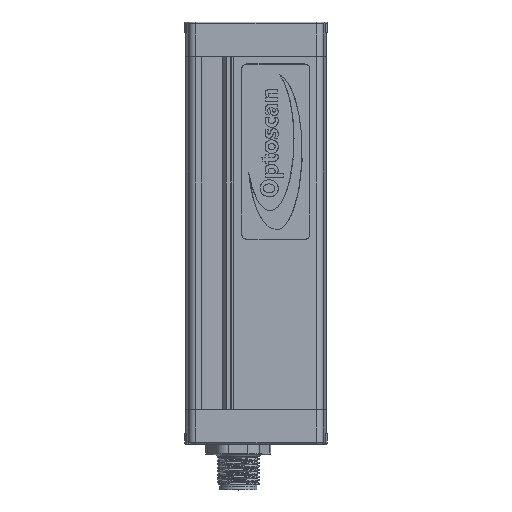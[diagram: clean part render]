
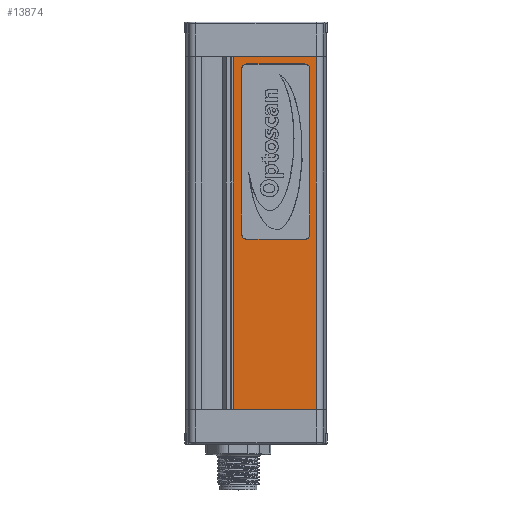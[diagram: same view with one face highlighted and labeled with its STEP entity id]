
A CAD part, top view. The second image highlights one B-rep face of the part: STEP entity #13874.
In plain terms, the highlighted planar face has unit normal (0, 0, 1).
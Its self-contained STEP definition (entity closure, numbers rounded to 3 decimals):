
#178=FACE_BOUND('',#2285,.T.);
#461=CIRCLE('',#14585,1.45);
#467=CIRCLE('',#14593,1.45);
#471=CIRCLE('',#14599,1.45);
#475=CIRCLE('',#14605,1.45);
#1052=PLANE('',#14718);
#1510=FACE_OUTER_BOUND('',#2284,.T.);
#2284=EDGE_LOOP('',(#9922,#9923,#9924,#9925));
#2285=EDGE_LOOP('',(#9926,#9927,#9928,#9929,#9930,#9931,#9932,#9933));
#3345=LINE('',#20295,#4416);
#3347=LINE('',#20307,#4418);
#3349=LINE('',#20319,#4420);
#3351=LINE('',#20328,#4422);
#3562=LINE('',#22495,#4633);
#3563=LINE('',#22497,#4634);
#3564=LINE('',#22499,#4635);
#3565=LINE('',#22500,#4636);
#4416=VECTOR('',#16169,10.);
#4418=VECTOR('',#16183,10.);
#4420=VECTOR('',#16197,10.);
#4422=VECTOR('',#16209,10.);
#4633=VECTOR('',#16644,10.);
#4634=VECTOR('',#16645,10.);
#4635=VECTOR('',#16646,10.);
#4636=VECTOR('',#16647,10.);
#5576=VERTEX_POINT('',#20283);
#5577=VERTEX_POINT('',#20285);
#5579=VERTEX_POINT('',#20291);
#5581=VERTEX_POINT('',#20297);
#5583=VERTEX_POINT('',#20303);
#5585=VERTEX_POINT('',#20309);
#5587=VERTEX_POINT('',#20315);
#5589=VERTEX_POINT('',#20321);
#5831=VERTEX_POINT('',#22493);
#5832=VERTEX_POINT('',#22494);
#5833=VERTEX_POINT('',#22496);
#5834=VERTEX_POINT('',#22498);
#6939=EDGE_CURVE('',#5576,#5577,#461,.T.);
#6944=EDGE_CURVE('',#5577,#5579,#3345,.T.);
#6947=EDGE_CURVE('',#5579,#5581,#467,.T.);
#6950=EDGE_CURVE('',#5581,#5583,#3347,.T.);
#6953=EDGE_CURVE('',#5583,#5585,#471,.T.);
#6956=EDGE_CURVE('',#5585,#5587,#3349,.T.);
#6959=EDGE_CURVE('',#5587,#5589,#475,.T.);
#6961=EDGE_CURVE('',#5589,#5576,#3351,.T.);
#7330=EDGE_CURVE('',#5831,#5832,#3562,.T.);
#7331=EDGE_CURVE('',#5832,#5833,#3563,.T.);
#7332=EDGE_CURVE('',#5834,#5833,#3564,.T.);
#7333=EDGE_CURVE('',#5831,#5834,#3565,.T.);
#9922=ORIENTED_EDGE('',*,*,#7330,.T.);
#9923=ORIENTED_EDGE('',*,*,#7331,.T.);
#9924=ORIENTED_EDGE('',*,*,#7332,.F.);
#9925=ORIENTED_EDGE('',*,*,#7333,.F.);
#9926=ORIENTED_EDGE('',*,*,#6939,.F.);
#9927=ORIENTED_EDGE('',*,*,#6961,.F.);
#9928=ORIENTED_EDGE('',*,*,#6959,.F.);
#9929=ORIENTED_EDGE('',*,*,#6956,.F.);
#9930=ORIENTED_EDGE('',*,*,#6953,.F.);
#9931=ORIENTED_EDGE('',*,*,#6950,.F.);
#9932=ORIENTED_EDGE('',*,*,#6947,.F.);
#9933=ORIENTED_EDGE('',*,*,#6944,.F.);
#13874=ADVANCED_FACE('',(#1510,#178),#1052,.T.);
#14585=AXIS2_PLACEMENT_3D('',#20286,#16158,#16159);
#14593=AXIS2_PLACEMENT_3D('',#20301,#16176,#16177);
#14599=AXIS2_PLACEMENT_3D('',#20313,#16190,#16191);
#14605=AXIS2_PLACEMENT_3D('',#20325,#16204,#16205);
#14718=AXIS2_PLACEMENT_3D('',#22492,#16642,#16643);
#16158=DIRECTION('center_axis',(0.,0.,
1.));
#16159=DIRECTION('ref_axis',(1.,0.,0.));
#16169=DIRECTION('',(1.,0.,0.));
#16176=DIRECTION('center_axis',(0.,0.,
1.));
#16177=DIRECTION('ref_axis',(1.,0.,0.));
#16183=DIRECTION('',(0.,1.,0.));
#16190=DIRECTION('center_axis',(0.,0.,
1.));
#16191=DIRECTION('ref_axis',(1.,0.,0.));
#16197=DIRECTION('',(-1.,0.,0.));
#16204=DIRECTION('center_axis',(0.,0.,
1.));
#16205=DIRECTION('ref_axis',(1.,0.,0.));
#16209=DIRECTION('',(0.,-1.,0.));
#16642=DIRECTION('center_axis',(0.,0.,
1.));
#16643=DIRECTION('ref_axis',(1.,0.,0.));
#16644=DIRECTION('',(1.,0.,0.));
#16645=DIRECTION('',(0.,1.,0.));
#16646=DIRECTION('',(1.,0.,0.));
#16647=DIRECTION('',(0.,1.,0.));
#20283=CARTESIAN_POINT('',(-42.765,49.7,28.879));
#20285=CARTESIAN_POINT('',(-41.315,48.25,28.879));
#20286=CARTESIAN_POINT('Origin',(-41.315,49.7,28.879));
#20291=CARTESIAN_POINT('',(-24.915,48.25,28.879));
#20295=CARTESIAN_POINT('',(-37.215,48.25,28.879));
#20297=CARTESIAN_POINT('',(-23.465,49.7,28.879));
#20301=CARTESIAN_POINT('Origin',(-24.915,49.7,28.879));
#20303=CARTESIAN_POINT('',(-23.465,96.5,28.879));
#20307=CARTESIAN_POINT('',(-23.465,61.4,28.879));
#20309=CARTESIAN_POINT('',(-24.915,97.95,28.879));
#20313=CARTESIAN_POINT('Origin',(-24.915,96.5,28.879));
#20315=CARTESIAN_POINT('',(-41.315,97.95,28.879));
#20319=CARTESIAN_POINT('',(-29.015,97.95,28.879));
#20321=CARTESIAN_POINT('',(-42.765,96.5,28.879));
#20325=CARTESIAN_POINT('Origin',(-41.315,96.5,28.879));
#20328=CARTESIAN_POINT('',(-42.765,84.8,28.879));
#22492=CARTESIAN_POINT('Origin',(-44.965,0.,
28.879));
#22493=CARTESIAN_POINT('',(-44.965,0.,28.879));
#22494=CARTESIAN_POINT('',(-21.664,0.,28.879));
#22495=CARTESIAN_POINT('',(-44.965,0.,28.879));
#22496=CARTESIAN_POINT('',(-21.664,100.,28.879));
#22497=CARTESIAN_POINT('',(-21.664,0.,28.879));
#22498=CARTESIAN_POINT('',(-44.965,100.,28.879));
#22499=CARTESIAN_POINT('',(-44.965,100.,28.879));
#22500=CARTESIAN_POINT('',(-44.965,0.,28.879));
